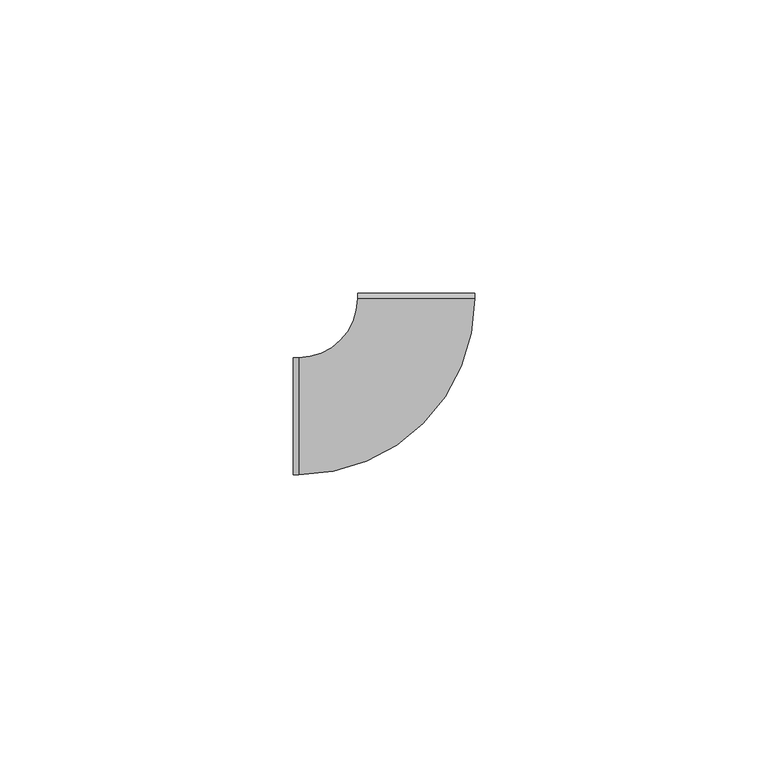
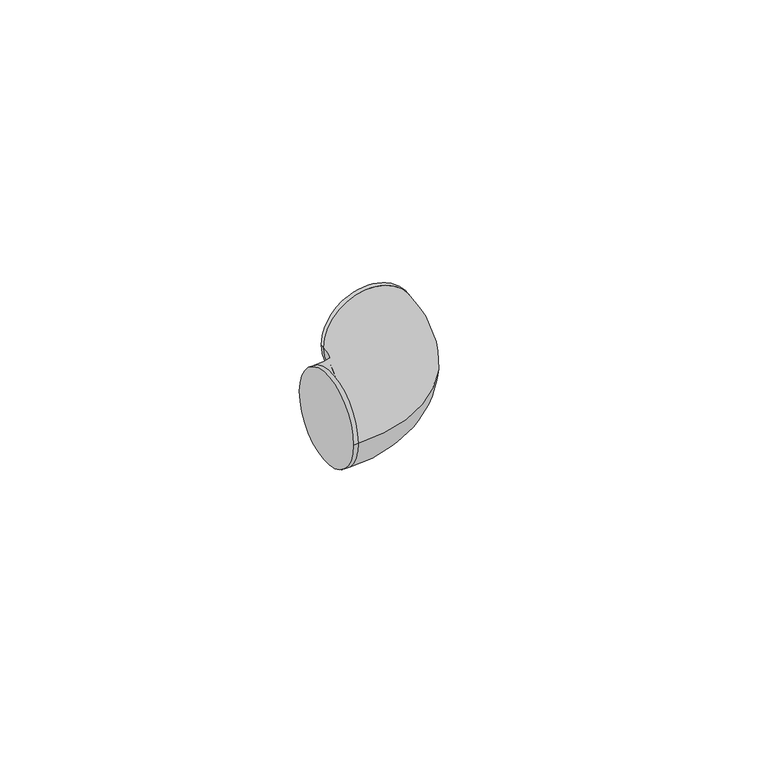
"""IFC4 building model written with IfcOpenShell, lengths in millimetres: cable carrier fitting geometry, ADSK_Поворот_Минимальный размер : Неспецифицируемый."""

from ifc_helpers import new_model, si_unit, point, frame, origin, place, context, project, spatial, circle_curve, ellipse_curve, trimmed, source, transform, mapped, element, save
from ifc_brep_helpers import plane_surface, cylinder_surface, revolved_surface, advanced_brep


def cable_carrier_fitting_67f6a775(model_context):
    return source(origin(), model_context, "Body", "AdvancedBrep", [
        advanced_brep(
        [(-21.0000003, -10.0, 0.0), (-21.0000003, 10.0, 0.0), (-20.0000003, -10.0, 0.0), (-20.0000003, 10.0, 0.0), (-10.0000003, 20.0000001, 0.0), (9.9999997, 20.0000004, 0.0), (9.9999997, 21.0000004, 0.0), (-10.0000003, 21.0000001, 0.0)],
        [
            (0, 1, circle_curve(frame((-21.0000003, 0.0, 0.0), z_axis=(-1.0, -4.92260399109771e-12, 0.0), x_axis=(-4.92260399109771e-12, 1.0, 0.0)), 10.0)),
            (1, 0, circle_curve(frame((-21.0000003, 0.0, 0.0), z_axis=(-1.0, -4.92260399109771e-12, 0.0), x_axis=(-4.92260399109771e-12, 1.0, 0.0)), 10.0)),
            (0, 2),
            (2, 3, circle_curve(frame((-20.0000003, 0.0, 0.0), z_axis=(-1.0, -4.92260399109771e-12, 0.0), x_axis=(-4.92260399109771e-12, 1.0, 0.0)), 10.0)),
            (3, 1),
            (3, 2, circle_curve(frame((-20.0000003, 0.0, 0.0), z_axis=(-1.0, -4.92260399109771e-12, 0.0), x_axis=(-4.92260399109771e-12, 1.0, 0.0)), 10.0)),
            (4, 3, circle_curve(frame((-20.0000003, 20.0, 0.0), z_axis=(0.0, 0.0, -1.0), x_axis=(0.0, -1.0, 0.0)), 10.0)),
            (2, 5, circle_curve(frame((-20.0000003, 20.0, 0.0), z_axis=(0.0, 0.0, 1.0), x_axis=(0.0, -1.0, 0.0)), 30.0)),
            (5, 4, circle_curve(frame((-3e-07, 20.0000003, 0.0), z_axis=(1.2716549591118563e-08, -0.9999999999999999, 0.0), x_axis=(-0.9999999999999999, -1.2716549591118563e-08, 0.0)), 10.0)),
            (4, 5, circle_curve(frame((-3e-07, 20.0000003, 0.0), z_axis=(1.2716549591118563e-08, -0.9999999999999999, 0.0), x_axis=(-0.9999999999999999, -1.2716549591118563e-08, 0.0)), 10.0)),
            (6, 7, circle_curve(frame((-3e-07, 21.0000003, 0.0), z_axis=(-1.2716549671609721e-08, 1.0, 0.0), x_axis=(-1.0, -1.2716549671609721e-08, 0.0)), 10.0)),
            (7, 6, circle_curve(frame((-3e-07, 21.0000003, 0.0), z_axis=(-1.2716549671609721e-08, 1.0, 0.0), x_axis=(-1.0, -1.2716549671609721e-08, 0.0)), 10.0)),
            (5, 6),
            (7, 4),
        ],
        [
            plane_surface(frame((-21.0000003, 0.0, 0.0), z_axis=(-1.0, -4.92260399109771e-12, 0.0), x_axis=(0.0, 0.0, 1.0))),
            cylinder_surface(frame((-21.0000003, 0.0, 0.0), z_axis=(-1.0, -4.92260399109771e-12, 0.0), x_axis=(-4.92260399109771e-12, 1.0, 0.0)), 10.0),
            revolved_surface(trimmed(ellipse_curve(frame((-20.0000003, 0.0, 0.0), z_axis=(-1.0, 0.0, 0.0), x_axis=(0.0, 1.0, 0.0)), 10.0, 10.0), [point((-20.0000003, -10.0, 0.0))], [point((-20.0000003, 10.0, 0.0))], True, "CARTESIAN"), (-20.0000003, 20.0, 0.0), (0.0, 0.0, 1.0)),
            revolved_surface(trimmed(ellipse_curve(frame((-20.0000003, 0.0, 0.0), z_axis=(-1.0, 0.0, 0.0), x_axis=(0.0, 1.0, 0.0)), 10.0, 10.0), [point((-20.0000003, 10.0, 0.0))], [point((-20.0000003, -10.0, 0.0))], True, "CARTESIAN"), (-20.0000003, 20.0, 0.0), (0.0, 0.0, 1.0)),
            plane_surface(frame((-3e-07, 21.0000003, 0.0), z_axis=(-1.2716549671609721e-08, 1.0, 0.0), x_axis=(0.0, 0.0, 1.0))),
            cylinder_surface(frame((-3e-07, 20.0000003, 0.0), z_axis=(1.2716549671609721e-08, -1.0, 0.0), x_axis=(-1.0, -1.2716549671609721e-08, 0.0)), 10.0),
        ],
        [
            (0, [[1, 2]]),
            (1, [[-1, 3, 4, 5]]),
            (1, [[-2, -5, 6, -3]]),
            (2, [[7, -4, 8, 9]]),
            (3, [[-8, -6, -7, 10]]),
            (4, [[11, 12]]),
            (5, [[-9, 13, -12, 14]]),
            (5, [[-10, -14, -11, -13]]),
        ],
    ),
    ])


if __name__ == "__main__":
    model = new_model("IFC4")
    model_context = context("Model", 3, world=origin())
    ifc_project = project(units=[si_unit("LENGTHUNIT", "METRE", prefix="MILLI")], contexts=[model_context])
    site = spatial("IfcSite", under=ifc_project)
    building = spatial("IfcBuilding", under=site)
    placement = place(None, origin())
    cable_carrier_fitting_shape = cable_carrier_fitting_67f6a775(model_context)
    element("IfcCableCarrierFitting", 1, ObjectType="ADSK_Поворот_Минимальный размер : Неспецифицируемый", at=placement, inside=building, context=model_context, shape_type="MappedRepresentation", body=[
        mapped(cable_carrier_fitting_shape, transform((0.0, 0.0, 0.0), x_axis=(1.0, 0.0, 0.0), y_axis=(0.0, 1.0, 0.0), z_axis=(0.0, 0.0, 1.0))),
    ])
    save(model, "model.ifc")
